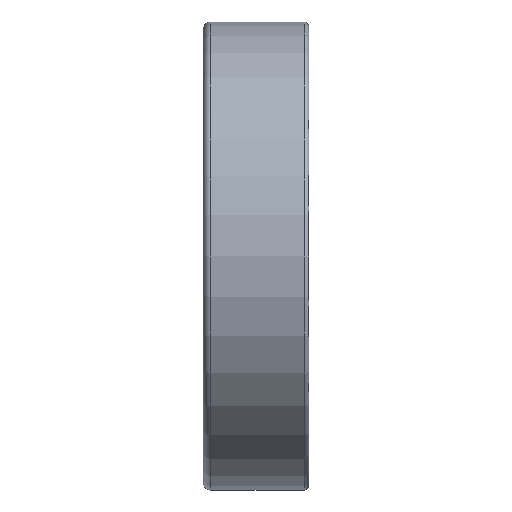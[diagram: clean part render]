
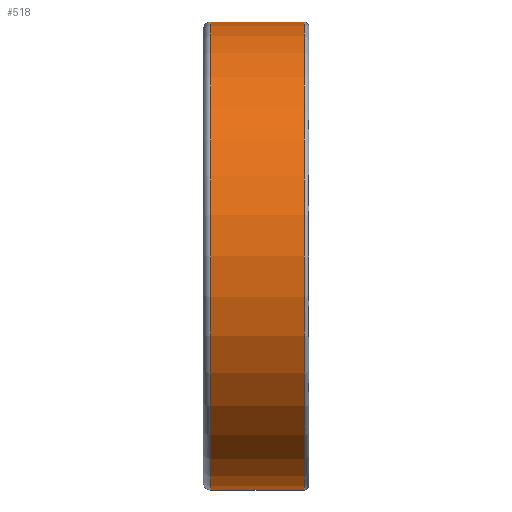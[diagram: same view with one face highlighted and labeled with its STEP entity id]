
A CAD part, front view. The second image highlights one B-rep face of the part: STEP entity #518.
In plain terms, the highlighted cylindrical face has radius 31 mm (diameter 62 mm), a full revolution.
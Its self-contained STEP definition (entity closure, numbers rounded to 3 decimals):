
#161=CYLINDRICAL_SURFACE('',#806,31.);
#253=EDGE_LOOP('',(#357));
#254=EDGE_LOOP('',(#358));
#357=ORIENTED_EDGE('',*,*,#417,.F.);
#358=ORIENTED_EDGE('',*,*,#415,.T.);
#415=EDGE_CURVE('',#737,#737,#435,.T.);
#417=EDGE_CURVE('',#739,#739,#437,.T.);
#435=CIRCLE('',#802,31.);
#437=CIRCLE('',#805,31.);
#518=ADVANCED_FACE('',(#647,#648),#161,.T.);
#647=FACE_BOUND('',#253,.T.);
#648=FACE_BOUND('',#254,.T.);
#737=VERTEX_POINT('',#2930);
#739=VERTEX_POINT('',#2935);
#802=AXIS2_PLACEMENT_3D('',#2929,#924,#925);
#805=AXIS2_PLACEMENT_3D('',#2934,#930,#931);
#806=AXIS2_PLACEMENT_3D('',#2936,#932,#933);
#924=DIRECTION('',(1.,0.,0.));
#925=DIRECTION('',(0.,0.,-1.));
#930=DIRECTION('',(1.,0.,0.));
#931=DIRECTION('',(0.,0.,-1.));
#932=DIRECTION('',(1.,0.,0.));
#933=DIRECTION('',(0.,0.,-1.));
#2929=CARTESIAN_POINT('',(-6.,0.,0.));
#2930=CARTESIAN_POINT('',(-6.,0.,-31.));
#2934=CARTESIAN_POINT('',(6.4,0.,0.));
#2935=CARTESIAN_POINT('',(6.4,0.,-31.));
#2936=CARTESIAN_POINT('',(-6.,0.,0.));
